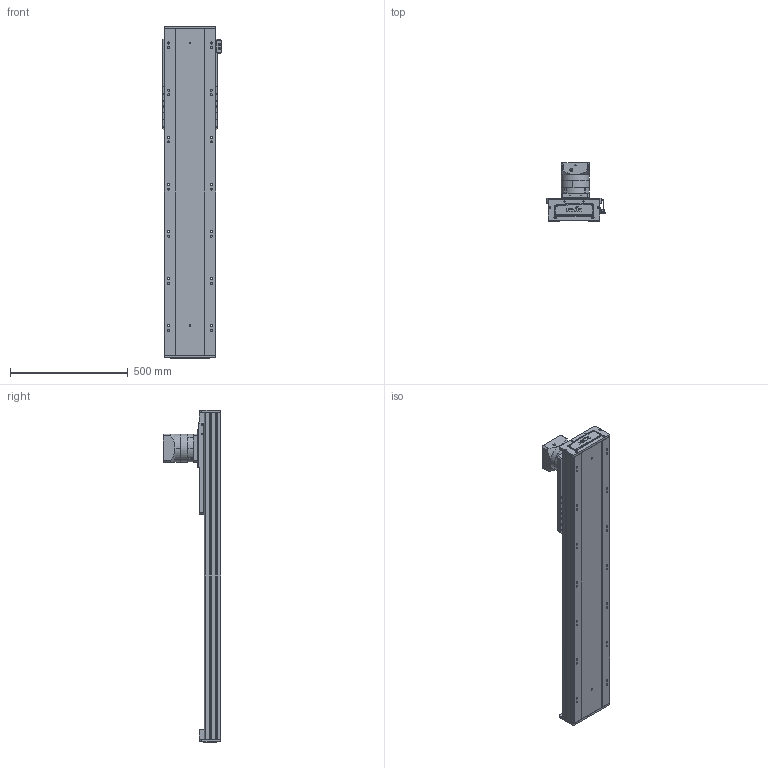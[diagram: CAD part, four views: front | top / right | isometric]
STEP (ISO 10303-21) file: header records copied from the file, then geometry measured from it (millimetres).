
FILE_DESCRIPTION (( 'STEP AP203' ), '1' );
FILE_NAME ('RY220-C-300-UK.SLDASM_0900.step', '2022-08-01T05:58:56', ( '' ), ( '' ), 'SwSTEP 2.0', 'SolidWorks 2016', '' );
FILE_SCHEMA (( 'CONFIG_CONTROL_DESIGN' ));
Length unit declared in the file: millimetre
Products named in the file (10): PF115L1-S2-22-58-110-145-M8; 滅袉蝶輸ㄗG412隅秶ㄘ; RY220喘沭俋离覜茼え; RY220喘沭綴裔啣; RY220喘沭賑輸; 覜茼ん674; RY220-齿条模组电机安装板; RY220菁釱MK-300_0900; RY140直线电机感应器674光电安装座; RY220-C-300-UK.SLDASM_0900
Assembly tree (12 placements, depth 2):
  RY220-C-300-UK.SLDASM_0900
    RY220菁釱MK-300_0900
    RY220喘沭賑輸
    RY220-齿条模组电机安装板
    PF115L1-S2-22-58-110-145-M8
    RY220喘沭綴裔啣  x2
    滅袉蝶輸ㄗG412隅秶ㄘ  x2
    RY140直线电机感应器674光电安装座
    覜茼ん674  x2
    RY220喘沭俋离覜茼え
Bounding box: 247 x 244.5 x 1409 mm (x, y, z)
Volume: 11859466.8 mm3; surface area: 2311591.6 mm2
Topology: 18 solids, 26 shells, 1936 faces, 5181 edges, 3307 vertices
Faces by surface type: cylinder 873, plane 751, bspline 162, cone 150
Entity records: 61077 total; most frequent: CARTESIAN_POINT 16851, DIRECTION 8999, ORIENTED_EDGE 8962, EDGE_CURVE 4481, AXIS2_PLACEMENT_3D 3403, VERTEX_POINT 2933, VECTOR 2193, LINE 2193
